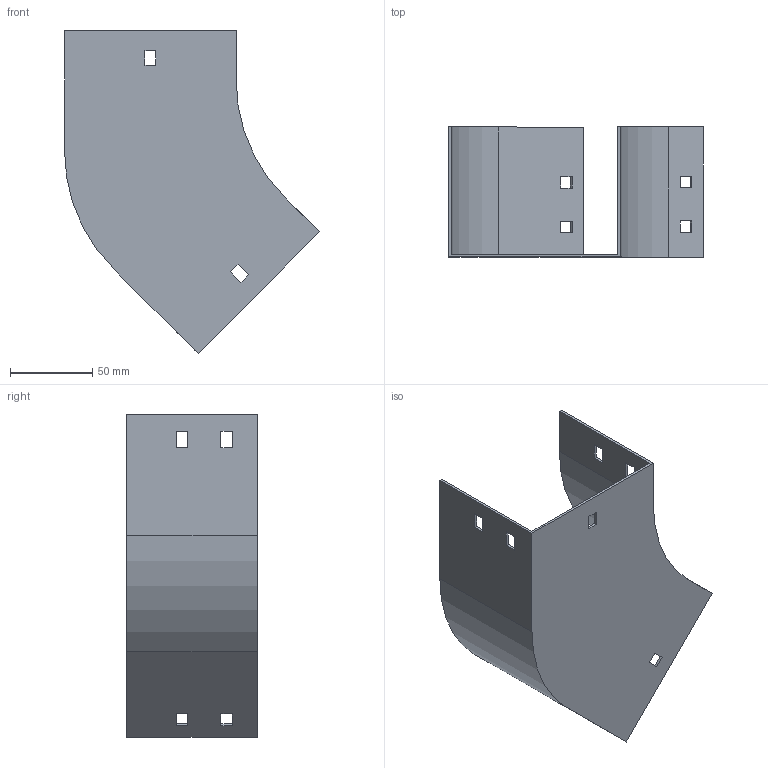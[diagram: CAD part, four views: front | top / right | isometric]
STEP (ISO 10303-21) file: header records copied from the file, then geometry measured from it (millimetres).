
FILE_DESCRIPTION (( 'STEP AP214' ), '1' );
FILE_NAME ('11F1C100.step', '2025-02-21T12:55:57', ( '' ), ( '' ), 'SwSTEP 2.0', 'SolidWorks 2023', '' );
FILE_SCHEMA (( 'AUTOMOTIVE_DESIGN' ));
Length unit declared in the file: millimetre
Products named in the file (1): 11F1C100
Bounding box: 154.5 x 79 x 195.46 mm (x, y, z)
Volume: 70214.4 mm3; surface area: 95442 mm2
Topology: 1 solids, 1 shells, 58 faces, 168 edges, 112 vertices
Faces by surface type: plane 54, cylinder 4
Entity records: 1943 total; most frequent: CARTESIAN_POINT 339, ORIENTED_EDGE 336, DIRECTION 294, EDGE_CURVE 168, VECTOR 160, LINE 160, VERTEX_POINT 112, EDGE_LOOP 78
